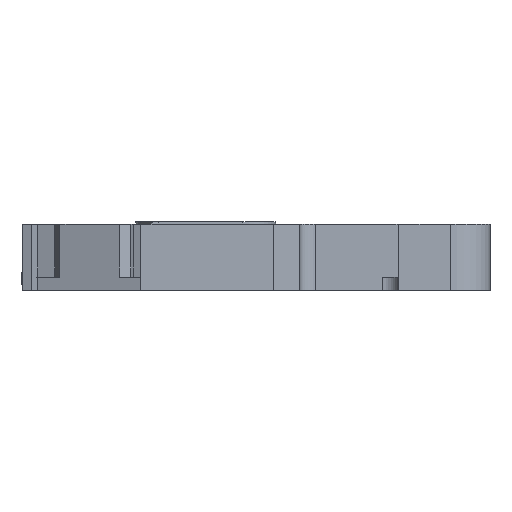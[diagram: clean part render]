
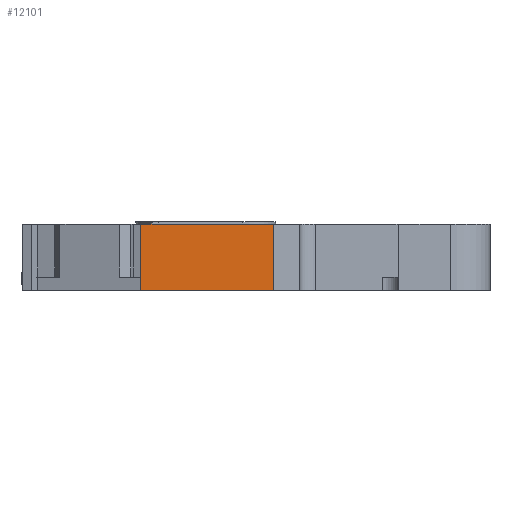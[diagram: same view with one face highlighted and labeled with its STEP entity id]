
A CAD part, left-side view. The second image highlights one B-rep face of the part: STEP entity #12101.
In plain terms, the highlighted planar face has unit normal (-1, 0, 0).
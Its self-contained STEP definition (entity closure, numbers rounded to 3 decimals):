
#111 = VERTEX_POINT ( 'NONE', #10654 ) ;
#462 = ORIENTED_EDGE ( 'NONE', *, *, #14239, .F. ) ;
#631 = ORIENTED_EDGE ( 'NONE', *, *, #15972, .T. ) ;
#1337 = VERTEX_POINT ( 'NONE', #9274 ) ;
#2545 = AXIS2_PLACEMENT_3D ( 'NONE', #6257, #8649, #15784 ) ;
#2933 = ORIENTED_EDGE ( 'NONE', *, *, #8874, .T. ) ;
#3007 = CARTESIAN_POINT ( 'NONE',  ( -43.6, 19.5, 0. ) ) ;
#3399 = LINE ( 'NONE', #10865, #16094 ) ;
#3406 = LINE ( 'NONE', #5801, #5288 ) ;
#4416 = EDGE_CURVE ( 'NONE', #111, #1337, #11069, .T. ) ;
#5288 = VECTOR ( 'NONE', #8201, 1000. ) ;
#5358 = FACE_OUTER_BOUND ( 'NONE', #5477, .T. ) ;
#5477 = EDGE_LOOP ( 'NONE', ( #15936, #462, #2933, #631 ) ) ;
#5801 = CARTESIAN_POINT ( 'NONE',  ( -43.6, 9.5, 5. ) ) ;
#6257 = CARTESIAN_POINT ( 'NONE',  ( -43.6, 19.5, 5. ) ) ;
#6364 = CARTESIAN_POINT ( 'NONE',  ( -43.6, 19.5, 5. ) ) ;
#6850 = CARTESIAN_POINT ( 'NONE',  ( -43.6, 9.5, 5. ) ) ;
#7522 = DIRECTION ( 'NONE',  ( 0., 1., 0. ) ) ;
#8201 = DIRECTION ( 'NONE',  ( 0., 0., -1. ) ) ;
#8649 = DIRECTION ( 'NONE',  ( -1., 0., 0. ) ) ;
#8874 = EDGE_CURVE ( 'NONE', #12398, #9281, #10797, .T. ) ;
#9274 = CARTESIAN_POINT ( 'NONE',  ( -43.6, 9.5, 0. ) ) ;
#9281 = VERTEX_POINT ( 'NONE', #6364 ) ;
#10654 = CARTESIAN_POINT ( 'NONE',  ( -43.6, 19.5, 0. ) ) ;
#10797 = LINE ( 'NONE', #15552, #15958 ) ;
#10865 = CARTESIAN_POINT ( 'NONE',  ( -43.6, 19.5, 5. ) ) ;
#11069 = LINE ( 'NONE', #3007, #12578 ) ;
#12101 = ADVANCED_FACE ( 'NONE', ( #5358 ), #14013, .T. ) ;
#12398 = VERTEX_POINT ( 'NONE', #6850 ) ;
#12578 = VECTOR ( 'NONE', #15231, 1000. ) ;
#13841 = DIRECTION ( 'NONE',  ( 0., 0., -1. ) ) ;
#14013 = PLANE ( 'NONE',  #2545 ) ;
#14239 = EDGE_CURVE ( 'NONE', #12398, #1337, #3406, .T. ) ;
#15231 = DIRECTION ( 'NONE',  ( 0., -1., 0. ) ) ;
#15552 = CARTESIAN_POINT ( 'NONE',  ( -43.6, 19.5, 5. ) ) ;
#15784 = DIRECTION ( 'NONE',  ( 0., 0., 1. ) ) ;
#15936 = ORIENTED_EDGE ( 'NONE', *, *, #4416, .T. ) ;
#15958 = VECTOR ( 'NONE', #7522, 1000. ) ;
#15972 = EDGE_CURVE ( 'NONE', #9281, #111, #3399, .T. ) ;
#16094 = VECTOR ( 'NONE', #13841, 1000. ) ;
